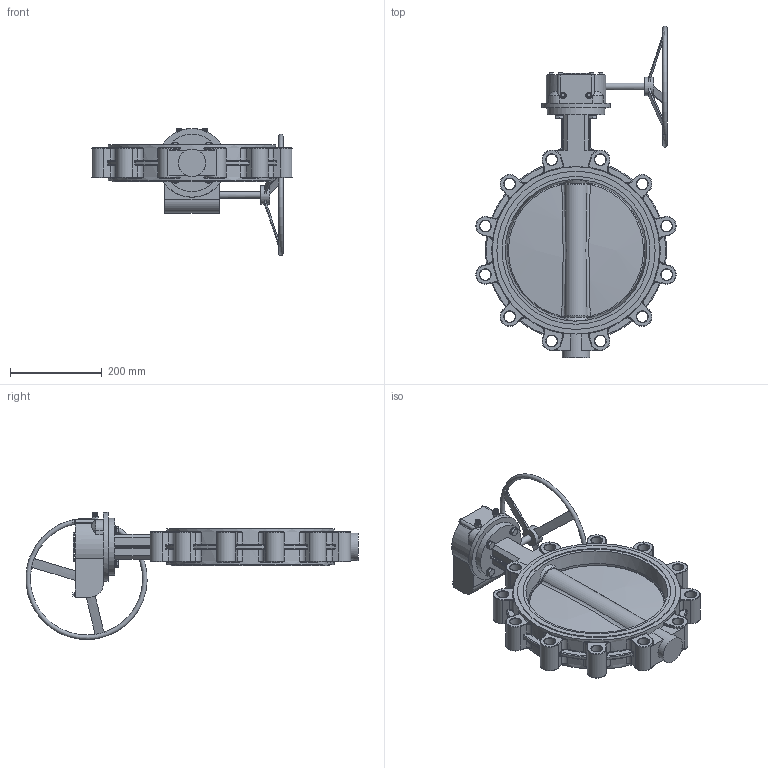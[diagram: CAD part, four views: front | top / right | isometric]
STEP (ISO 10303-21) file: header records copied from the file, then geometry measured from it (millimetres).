
FILE_DESCRIPTION (( 'STEP AP214' ), '1' );
FILE_NAME ('恦謫 等標評概Fig3240-300-16.STEP', '2026-03-20T07:56:56', ( '' ), ( '' ), 'SwSTEP 2.0', 'SolidWorks 2024', '' );
FILE_SCHEMA (( 'AUTOMOTIVE_DESIGN' ));
Length unit declared in the file: millimetre
Products named in the file (1): 涡轮 单夹蝶阀Fig3240-300-16
Bounding box: 437.87 x 725.11 x 277.45 mm (x, y, z)
Volume: 7121943.2 mm3; surface area: 739250.1 mm2
Topology: 1 solids, 3 shells, 1194 faces, 2914 edges, 1751 vertices
Faces by surface type: plane 404, cylinder 295, bspline 228, torus 221, cone 42, sphere 4
Full cylindrical faces by diameter (mm): 6 x4, 10 x10, 10.9 x4, 12 x4, 15 x1, 16.9 x4, 20 x1, 24 x12, 31.8 x2, 40 x1, 60 x1, 64 x1, 83 x1, 125 x1, 150 x1, 323 x2, 345.5 x2, 365.5 x2
Entity records: 64698 total; most frequent: CARTESIAN_POINT 25689, ORIENTED_EDGE 5542, DIRECTION 5027, EDGE_CURVE 2771, AXIS2_PLACEMENT_3D 1933, VERTEX_POINT 1726, EDGE_LOOP 1381, FACE_OUTER_BOUND 1263
